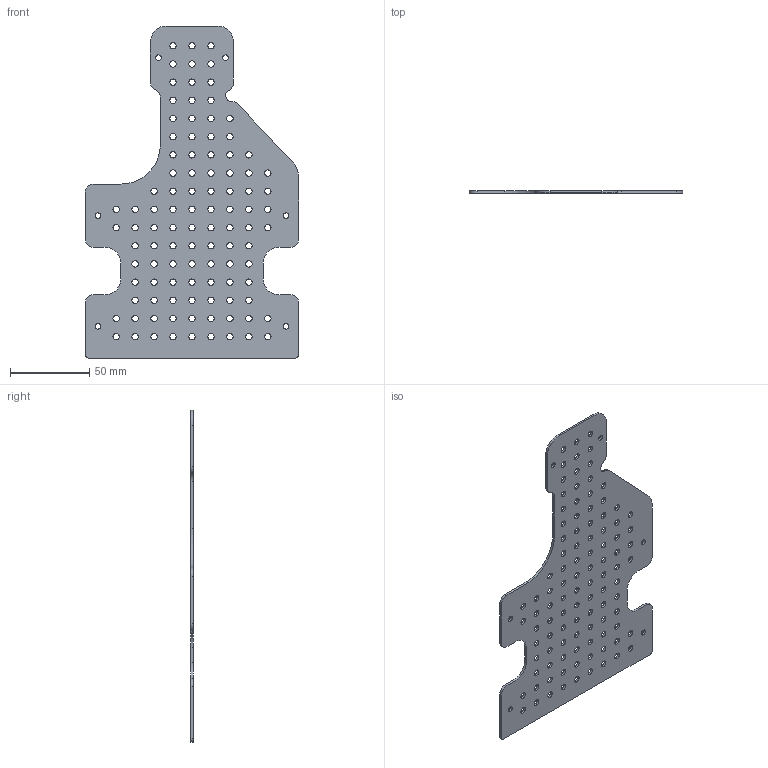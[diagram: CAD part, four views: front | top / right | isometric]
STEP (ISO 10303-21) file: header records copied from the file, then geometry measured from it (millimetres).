
FILE_DESCRIPTION(/* description */ (''),/* implementation_level */ '2;1');
FILE_NAME(/* name */ 'Thumb splint.step',/* time_stamp */ '2025-12-04T10:45:41+01:00',/* author */ (''),/* organization */ (''),/* preprocessor_version */ 'ST-DEVELOPER v20.1',/* originating_system */ 'Autodesk Translation Framework v14.21.0.0',/* authorisation */ '');
FILE_SCHEMA (('AUTOMOTIVE_DESIGN { 1 0 10303 214 3 1 1 }'));
Length unit declared in the file: millimetre
Products named in the file (1): 2025-11-24-13-59-10-673
Bounding box: 135 x 1.5 x 210 mm (x, y, z)
Volume: 27682.9 mm3; surface area: 40012.5 mm2
Topology: 1 solids, 1 shells, 147 faces, 435 edges, 290 vertices
Faces by surface type: cylinder 128, plane 19
Full cylindrical faces by diameter (mm): 3.5 x6, 4 x102
Entity records: 5530 total; most frequent: DIRECTION 987, CARTESIAN_POINT 873, ORIENTED_EDGE 870, EDGE_CURVE 435, AXIS2_PLACEMENT_3D 404, EDGE_LOOP 363, VERTEX_POINT 290, CIRCLE 256
